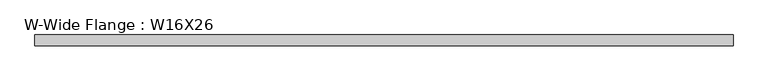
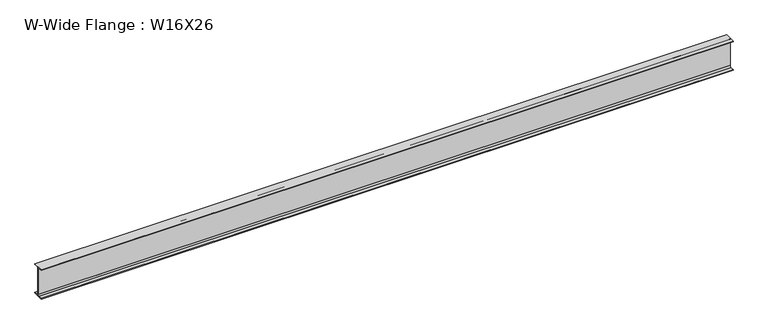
"""IFC4 building model written with IfcOpenShell, lengths in millimetres: beam geometry, W-Wide Flange : W16X26."""

import ifcopenshell
import ifcopenshell.guid

model = None  # the IFC model being written
_history = None  # IfcOwnerHistory: only IFC2X3 demands one
_inside = {}  # id of a spatial element -> (the spatial element, [elements in it])
_under = {}  # id of a project, library or spatial element -> (it, [spatial elements below it])
_declared = {}  # id of a project -> (the project, [libraries it declares])
_typed = {}  # id of a type object -> (the type object, [elements of that type])
_made_of = {}  # id of a material, layer set ... -> (it, [elements and type objects made of it])


def new_model(schema):
    """Start an empty IFC model of exactly this schema.

    Asked for "IFC4X3", IfcOpenShell would pick the latest addendum, in which some entities
    have other attributes; the version numbers below select the first issue.
    IFC2X3 requires an IfcOwnerHistory on every rooted entity: one is made here for all.
    """
    global model, _history
    if schema == "IFC4X3":
        model = ifcopenshell.file(schema_version=(4, 3, 0, 0))
    else:
        model = ifcopenshell.file(schema=schema)
    _inside.clear()
    _under.clear()
    _declared.clear()
    _typed.clear()
    _made_of.clear()
    _history = None
    if model.schema == "IFC2X3":
        org = make("IfcOrganization", Name="unknown")
        user = make(
            "IfcPersonAndOrganization",
            ThePerson=make("IfcPerson", FamilyName="unknown"),
            TheOrganization=org,
        )
        app = make(
            "IfcApplication",
            ApplicationDeveloper=org,
            Version="unknown",
            ApplicationFullName="unknown",
            ApplicationIdentifier="unknown",
        )
        _history = make(
            "IfcOwnerHistory",
            OwningUser=user,
            OwningApplication=app,
            ChangeAction="ADDED",
            CreationDate=0,
        )
    return model


def make(cls, **values):
    """One entity of the class cls with the attributes given. An attribute that is None is left unset."""
    return model.create_entity(
        cls, **{name: value for name, value in values.items() if value is not None}
    )


def rooted(cls, **values):
    """An entity with a GlobalId (a new one), such as an element, a storey or a relation."""
    return make(cls, GlobalId=ifcopenshell.guid.new(), OwnerHistory=_history, **values)


def si_unit(unit_type, name, prefix=None):
    """IfcSIUnit, for example si_unit("LENGTHUNIT", "METRE", prefix="MILLI")."""
    return make("IfcSIUnit", UnitType=unit_type, Prefix=prefix, Name=name)


def assignment(units):
    """IfcUnitAssignment: the units of a project."""
    return None if units is None else make("IfcUnitAssignment", Units=units)


def point(xyz):
    """IfcCartesianPoint."""
    return None if xyz is None else make("IfcCartesianPoint", Coordinates=xyz)


def direction(xyz):
    """IfcDirection."""
    return None if xyz is None else make("IfcDirection", DirectionRatios=xyz)


def frame(location, z_axis=None, x_axis=None):
    """IfcAxis2Placement3D, a coordinate frame: its origin and axes. An axis left out is left unset."""
    return make(
        "IfcAxis2Placement3D",
        Location=point(location),
        Axis=direction(z_axis),
        RefDirection=direction(x_axis),
    )


def frame_2d(location, x_axis=None):
    """IfcAxis2Placement2D, a coordinate frame in the plane: its origin and x axis."""
    return make(
        "IfcAxis2Placement2D", Location=point(location), RefDirection=direction(x_axis)
    )


def origin():
    """The frame at (0, 0, 0) with its axes left unset."""
    return frame((0.0, 0.0, 0.0))


def place(relative_to, where):
    """IfcLocalPlacement: puts the frame where relative to a parent placement (None: the world)."""
    return make(
        "IfcLocalPlacement", PlacementRelTo=relative_to, RelativePlacement=where
    )


def context(
    kind, dimensions, precision=None, world=None, true_north=None, identifier=None
):
    """IfcGeometricRepresentationContext, for example the 3D "Model" context."""
    return make(
        "IfcGeometricRepresentationContext",
        ContextIdentifier=identifier,
        ContextType=kind,
        CoordinateSpaceDimension=dimensions,
        Precision=precision,
        WorldCoordinateSystem=world,
        TrueNorth=true_north,
    )


def project(units=None, contexts=None):
    """IfcProject with its units and contexts."""
    return rooted(
        "IfcProject",
        Name="project",
        RepresentationContexts=contexts,
        UnitsInContext=assignment(units),
    )


def spatial(cls, under=None, at=None, **own):
    """A site, building, storey or space (cls), placed at a placement, below another one or the project."""
    s = rooted(cls, ObjectPlacement=at, **own)
    if under is not None:
        _under.setdefault(under.id(), (under, []))[1].append(s)
    return s


def polyline(points):
    """IfcPolyline through the points."""
    return make("IfcPolyline", Points=[point(p) for p in points])


def circle_curve(where, radius):
    """IfcCircle in the frame where."""
    return make("IfcCircle", Position=where, Radius=radius)


def trimmed(basis, trim1, trim2, sense, master):
    """IfcTrimmedCurve: the piece of a basis curve between two trims."""
    return make(
        "IfcTrimmedCurve",
        BasisCurve=basis,
        Trim1=trim1,
        Trim2=trim2,
        SenseAgreement=sense,
        MasterRepresentation=master,
    )


def segment(curve, same_sense, transition):
    """IfcCompositeCurveSegment."""
    return make(
        "IfcCompositeCurveSegment",
        Transition=transition,
        SameSense=same_sense,
        ParentCurve=curve,
    )


def composite_curve(segments, self_intersect=None):
    """IfcCompositeCurve: segments joined end to end."""
    return make("IfcCompositeCurve", Segments=segments, SelfIntersect=self_intersect)


def outline(outer, holes=None, kind="AREA"):
    """IfcArbitraryClosedProfileDef: a profile drawn as a closed curve; with holes, ...WithVoids."""
    if holes is None:
        return make("IfcArbitraryClosedProfileDef", ProfileType=kind, OuterCurve=outer)
    return make(
        "IfcArbitraryProfileDefWithVoids",
        ProfileType=kind,
        OuterCurve=outer,
        InnerCurves=holes,
    )


def extrude(swept, where, along, depth):
    """IfcExtrudedAreaSolid: the profile swept, set in the frame where, extruded along a direction by depth."""
    return make(
        "IfcExtrudedAreaSolid",
        SweptArea=swept,
        Position=where,
        ExtrudedDirection=direction(along),
        Depth=depth,
    )


def shape(context_of_items, identifier, shape_type, items):
    """IfcShapeRepresentation: the items that make up one representation, for example the "Body"."""
    return make(
        "IfcShapeRepresentation",
        ContextOfItems=context_of_items,
        RepresentationIdentifier=identifier,
        RepresentationType=shape_type,
        Items=items,
    )


def source(mapping_origin, context_of_items, identifier, shape_type, items):
    """IfcRepresentationMap: a shape defined once, which mapped items show again and again."""
    return make(
        "IfcRepresentationMap",
        MappingOrigin=mapping_origin,
        MappedRepresentation=shape(context_of_items, identifier, shape_type, items),
    )


def transform(
    local_origin,
    x_axis=None,
    y_axis=None,
    z_axis=None,
    scale=None,
    scale2=None,
    scale3=None,
    uniform=True,
):
    """IfcCartesianTransformationOperator3D, or its non-uniform kind. x_axis, y_axis, z_axis: its Axis1, 2, 3."""
    if uniform:
        return make(
            "IfcCartesianTransformationOperator3D",
            Axis1=direction(x_axis),
            Axis2=direction(y_axis),
            LocalOrigin=point(local_origin),
            Scale=scale,
            Axis3=direction(z_axis),
        )
    return make(
        "IfcCartesianTransformationOperator3DnonUniform",
        Axis1=direction(x_axis),
        Axis2=direction(y_axis),
        LocalOrigin=point(local_origin),
        Scale=scale,
        Axis3=direction(z_axis),
        Scale2=scale2,
        Scale3=scale3,
    )


def mapped(mapping_source, mapping_target):
    """IfcMappedItem: shows the shape of a source again, moved by a transform."""
    return make(
        "IfcMappedItem", MappingSource=mapping_source, MappingTarget=mapping_target
    )


def made_of(thing, what):
    """Note that an element or type object is made of a material, layer set ...; save() writes the relation."""
    if what is not None:
        _made_of.setdefault(what.id(), (what, []))[1].append(thing)
    return thing


def element(
    cls,
    number,
    at=None,
    inside=None,
    cuts=None,
    type_object=None,
    material=None,
    context=None,
    identifier="Body",
    shape_type=None,
    held_by="IfcProductDefinitionShape",
    body=None,
    shapes=None,
    **own,
):
    """One element of the class cls, such as IfcWall. Its Tag is "e" and its number.

    at: its placement. inside: the storey or other place that contains it. cuts: it is an
    opening in that element (IfcRelVoidsElement). A single representation is given by context,
    identifier, shape_type and body (its items); several are given by shapes. held_by: the class
    of the entity that holds the representations. save() writes the other relations.
    """
    e = rooted(cls, Tag="e%d" % number, ObjectPlacement=at, **own)
    if body is not None:
        shapes = [shape(context, identifier, shape_type, body)]
    if shapes is not None:
        e.Representation = make(held_by, Representations=shapes)
    if inside is not None:
        _inside.setdefault(inside.id(), (inside, []))[1].append(e)
    if cuts is not None:
        rooted(
            "IfcRelVoidsElement", RelatingBuildingElement=cuts, RelatedOpeningElement=e
        )
    if type_object is not None:
        _typed.setdefault(type_object.id(), (type_object, []))[1].append(e)
    return made_of(e, material)


def aggregate(whole, parts):
    """IfcRelAggregates: a whole, such as a stair, and the parts it consists of."""
    return rooted("IfcRelAggregates", RelatingObject=whole, RelatedObjects=parts)


def save(model, path):
    """Write the relations noted so far, then the file.

    IfcRelAggregates (storeys below a building ...), IfcRelContainedInSpatialStructure (elements
    in a storey), IfcRelDefinesByType, IfcRelAssociatesMaterial and IfcRelDeclares: one each for
    every whole, place, type object, material and project.
    """
    for whole, parts in _under.values():
        aggregate(whole, parts)
    for where, things in _inside.values():
        rooted(
            "IfcRelContainedInSpatialStructure",
            RelatedElements=things,
            RelatingStructure=where,
        )
    for kind, things in _typed.values():
        rooted("IfcRelDefinesByType", RelatedObjects=things, RelatingType=kind)
    for what, things in _made_of.values():
        rooted("IfcRelAssociatesMaterial", RelatedObjects=things, RelatingMaterial=what)
    for by, libraries in _declared.values():
        rooted("IfcRelDeclares", RelatingContext=by, RelatedDefinitions=libraries)
    model.write(path)


def w_wide_flange_w16x26_d7eb271b(model_context):
    return source(origin(), model_context, "Body", "SweptSolid", [
        extrude(outline(composite_curve([segment(polyline([(69.85, -190.5496094), (69.85, -199.2808594), (-69.85, -199.2808594), (-69.85, -190.5496094), (-21.43125, -190.5496094)]), True, "CONTINUOUS"), segment(trimmed(circle_curve(frame_2d((-21.43125, -172.2933594)), 18.25625), [point((-21.43125, -190.5496094))], [point((-3.175, -172.2933594))], True, "CARTESIAN"), True, "CONTINUOUS"), segment(polyline([(-3.175, -172.2933594), (-3.175, 172.2933594)]), True, "CONTINUOUS"), segment(trimmed(circle_curve(frame_2d((-21.43125, 172.2933594)), 18.25625), [point((-3.175, 172.2933594))], [point((-21.43125, 190.5496094))], True, "CARTESIAN"), True, "CONTINUOUS"), segment(polyline([(-21.43125, 190.5496094), (-69.85, 190.5496094), (-69.85, 199.2808594), (69.85, 199.2808594), (69.85, 190.5496094), (21.43125, 190.5496094)]), True, "CONTINUOUS"), segment(trimmed(circle_curve(frame_2d((21.43125, 172.2933594)), 18.25625), [point((21.43125, 190.5496094))], [point((3.175, 172.2933594))], True, "CARTESIAN"), True, "CONTINUOUS"), segment(polyline([(3.175, 172.2933594), (3.175, -172.2933594)]), True, "CONTINUOUS"), segment(trimmed(circle_curve(frame_2d((21.43125, -172.2933594)), 18.25625), [point((3.175, -172.2933594))], [point((21.43125, -190.5496094))], True, "CARTESIAN"), True, "CONTINUOUS"), segment(polyline([(21.43125, -190.5496094), (69.85, -190.5496094)]), True, "CONTINUOUS")], self_intersect=False)), frame((-4457.7496094, 0.0, 0.0), z_axis=(1.0, 0.0, 0.0), x_axis=(0.0, 1.0, 0.0)), (0.0, 0.0, 1.0), 8915.4992187),
    ])


if __name__ == "__main__":
    model = new_model("IFC4")
    model_context = context("Model", 3, world=origin())
    ifc_project = project(units=[si_unit("LENGTHUNIT", "METRE", prefix="MILLI")], contexts=[model_context])
    site = spatial("IfcSite", under=ifc_project)
    building = spatial("IfcBuilding", under=site)
    placement = place(None, origin())
    w_wide_flange_w16x26_shape = w_wide_flange_w16x26_d7eb271b(model_context)
    element("IfcBeam", 1, ObjectType="W-Wide Flange : W16X26", at=placement, inside=building, context=model_context, shape_type="MappedRepresentation", body=[
        mapped(w_wide_flange_w16x26_shape, transform((0.0, 0.0, 0.0), x_axis=(1.0, 0.0, 0.0), y_axis=(0.0, 1.0, 0.0), z_axis=(0.0, 0.0, 1.0))),
    ])
    save(model, "model.ifc")
